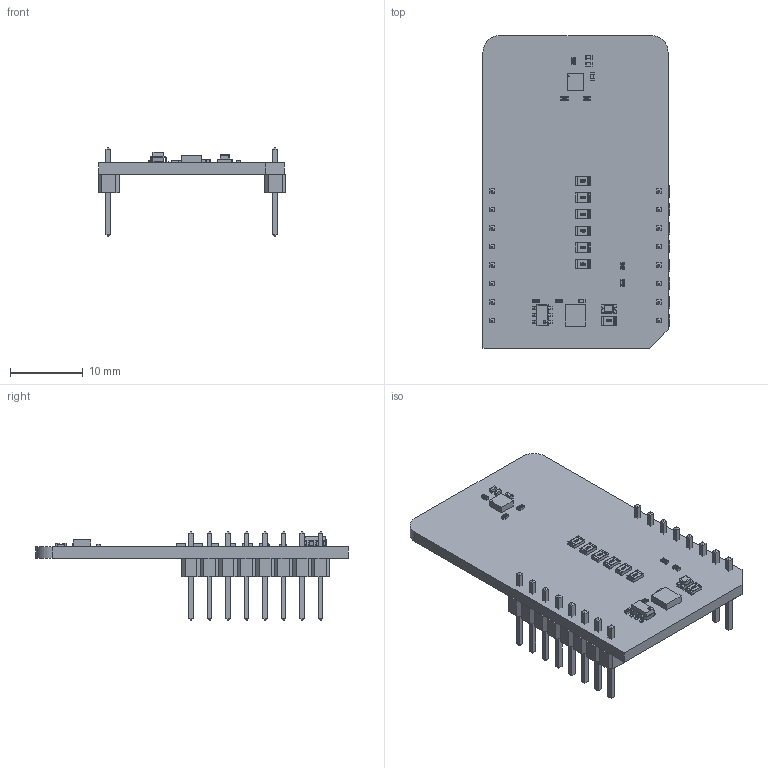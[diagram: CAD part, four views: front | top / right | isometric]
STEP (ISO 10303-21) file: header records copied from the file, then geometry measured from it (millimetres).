
FILE_DESCRIPTION(('Open CASCADE Model'),'2;1');
FILE_NAME('Open CASCADE Shape Model','2026-01-20T15:46:18',('Author'),( 'Open CASCADE'),'Open CASCADE STEP processor 7.5','Open CASCADE 7.5' ,'Unknown');
FILE_SCHEMA(('AUTOMOTIVE_DESIGN { 1 0 10303 214 1 1 1 1 }'));
Length unit declared in the file: millimetre
Products named in the file (40): PCB; Board; Open CASCADE STEP translator 7.5 1.1.1; R2; User Library-R_0402; U3; 7481837232; R7; R8; R6; R5; JP2; User Library-R_0805; JP4; JP6; JP5; JP3; C4; User Library-SMD CAPACITOR0402; C3; C2; R3; R1; LD1; led_0805_green; C1; R4; U1; 7318502992; Extruded; U2; User Library-SOT23-6-2; MBD1; Header 1x8; Free-Models; 1240637040; User_Library-PinHeaderX5-1_PinHeaderX5_Body_1; User_Library-PinHeaderX5-1_PinHeaderX5_Pins_1; JP1
Assembly tree (56 placements, depth 7):
  PCB
    Board
      Open CASCADE STEP translator 7.5 1.1.1
    R2
      User Library-R_0402
    U3
      7481837232
    R7
      User Library-R_0402
    R8
      User Library-R_0402
    R6
      User Library-R_0402
    R5
      User Library-R_0402
    JP2
      User Library-R_0805
    JP4
      User Library-R_0805
    JP6
      User Library-R_0805
    JP5
      User Library-R_0805
    JP3
      User Library-R_0805
    C4
      User Library-SMD CAPACITOR0402
    C3
      User Library-SMD CAPACITOR0402
    C2
      User Library-SMD CAPACITOR0402
    R3
      User Library-R_0402
    R1
      User Library-R_0805
    LD1
      led_0805_green
    C1
      User Library-SMD CAPACITOR0402
    R4
      User Library-R_0402
    U1
      7318502992
        Extruded
    U2
      User Library-SOT23-6-2
    MBD1
      Header 1x8  x2
        PCB
          Free-Models
            1240637040  x2
              User_Library-PinHeaderX5-1_PinHeaderX5_Body_1
              User_Library-PinHeaderX5-1_PinHeaderX5_Pins_1
    JP1
      User Library-R_0805
Bounding box: 25.78 x 42.93 x 12.19 mm (x, y, z)
Volume: 2222.2 mm3; surface area: 3931.6 mm2
Topology: 86 solids, 86 shells, 2173 faces, 5391 edges, 3470 vertices
Faces by surface type: plane 1557, bspline 476, cylinder 102, sphere 38
Full cylindrical faces by diameter (mm): 0.116 x1
Entity records: 25147 total; most frequent: CARTESIAN_POINT 7382, ORIENTED_EDGE 2850, DIRECTION 2559, EDGE_CURVE 1425, LINE 1173, VECTOR 1173, VERTEX_POINT 914, AXIS2_PLACEMENT_3D 693
